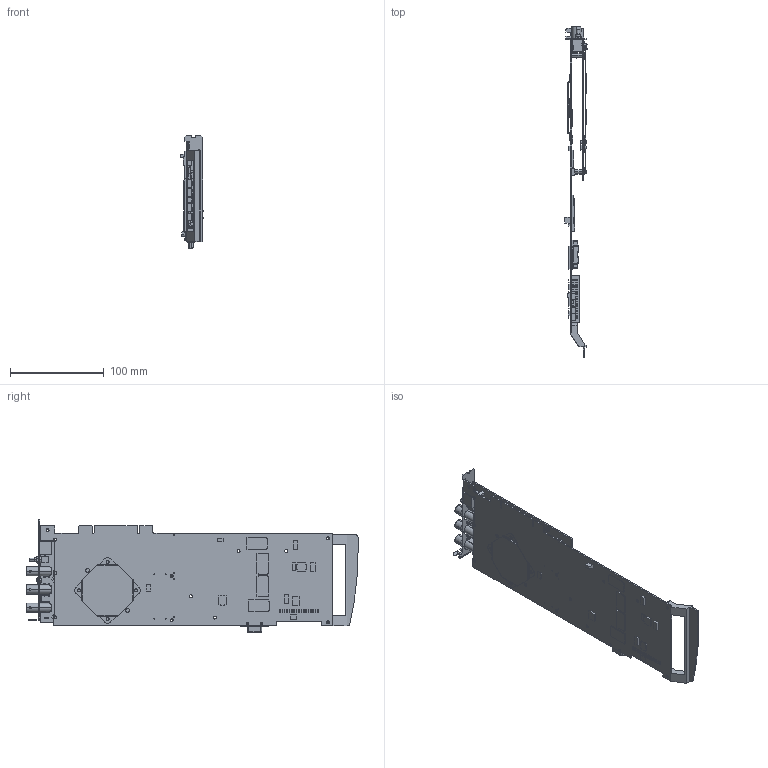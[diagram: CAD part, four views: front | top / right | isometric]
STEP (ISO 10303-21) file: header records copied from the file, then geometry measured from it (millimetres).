
FILE_DESCRIPTION((''),'2;1');
FILE_NAME('CU_PCI-5114_W_RETAINER','2009-12-14T',('jjorden'),(''),'PRO/ENGINEER BY PARAMETRIC TECHNOLOGY CORPORATION, 2006080','PRO/ENGINEER BY PARAMETRIC TECHNOLOGY CORPORATION, 2006080','');
FILE_SCHEMA(('CONFIG_CONTROL_DESIGN'));
Products named in the file (1): CU_PCI-5114_W_RETAINER
Bounding box: 23.62 x 354.53 x 119.99 mm (x, y, z)
Volume: 107898.2 mm3; surface area: 138368.6 mm2
Topology: 2 solids, 2 shells, 3037 faces, 7995 edges, 5105 vertices
Faces by surface type: plane 2246, cylinder 617, bspline 70, torus 50, cone 40, sphere 14
Entity records: 99783 total; most frequent: CARTESIAN_POINT 23996, ORIENTED_EDGE 15926, DIRECTION 15055, EDGE_CURVE 7963, VECTOR 6203, LINE 6203, VERTEX_POINT 5181, AXIS2_PLACEMENT_3D 4426
